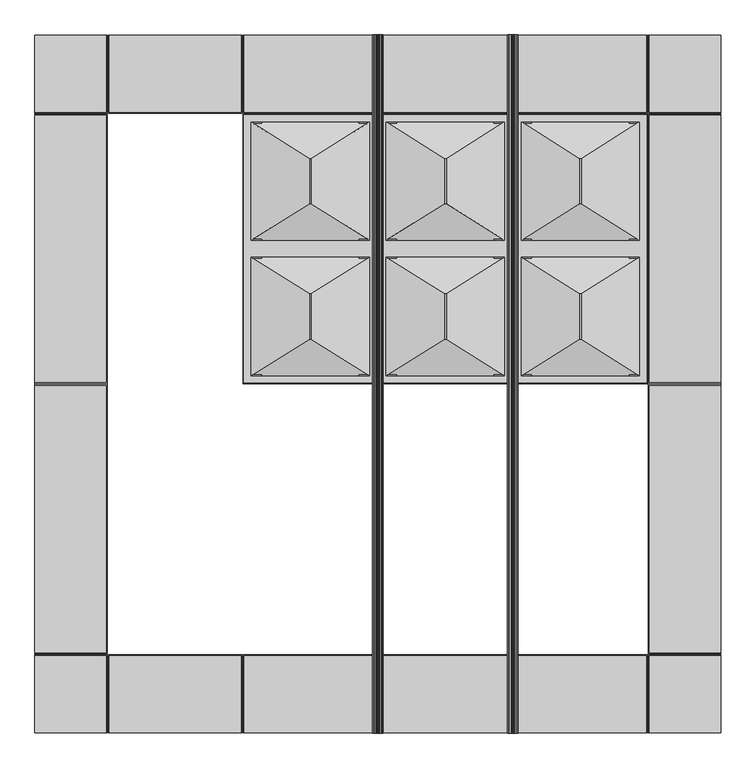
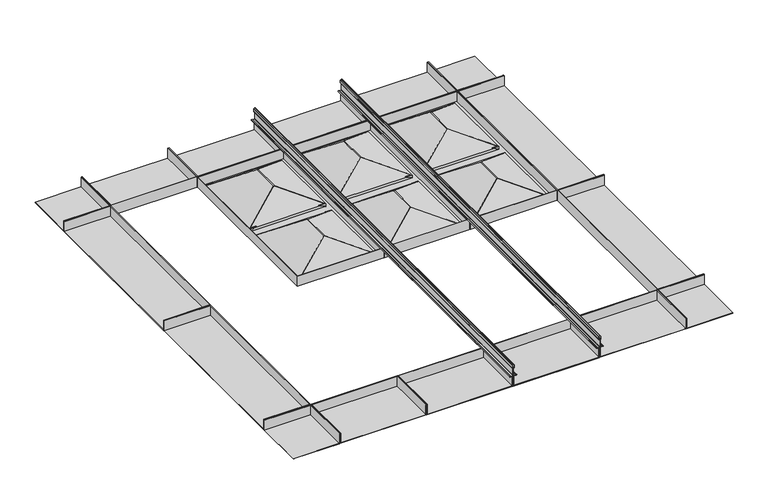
"""IFC4 building model written with IfcOpenShell, lengths in millimetres: proxy geometry, Maxxit_Piramid-Ceiling_rev-01 : Maxxit_Piramid-Ceiling_Duo."""

from ifc_helpers import new_model, si_unit, point, frame, frame_2d, origin, place, context, project, spatial, polyline, circle_curve, trimmed, segment, composite_curve, outline, extrude, faceted_brep, source, transform, mapped, element, save


def generic_models_602b7332(model_context):
    return source(origin(), model_context, "Body", "SolidModel", [
        extrude(outline(composite_curve([segment(polyline([(26.3453115, 1079.8521622), (26.0364605, 1088.2221882), (27.0486923, 1088.2221882), (27.0486923, 1080.4587813)]), True, "CONTINUOUS"), segment(trimmed(circle_curve(frame_2d((28.0053766, 1080.4587813)), 0.9566843), [point((27.0486923, 1080.4587813))], [point((28.0053766, 1079.502097))], True, "CARTESIAN"), True, "CONTINUOUS"), segment(polyline([(28.0053766, 1079.502097), (53.7729211, 1079.502097)]), True, "CONTINUOUS"), segment(trimmed(circle_curve(frame_2d((53.6130577, 1080.2289444)), 0.74422), [point((53.7729211, 1079.502097))], [point((54.356, 1080.1853536))], True, "CARTESIAN"), True, "CONTINUOUS"), segment(trimmed(circle_curve(frame_2d((58.371716, 1080.4444703)), 4.0240672), [point((54.356, 1080.1853536))], [point((54.4068054, 1081.1319295))], False, "CARTESIAN"), True, "CONTINUOUS"), segment(trimmed(circle_curve(frame_2d((55.7865501, 1080.774174)), 1.4253717), [point((54.4068054, 1081.1319295))], [point((55.7865501, 1082.1995457))], False, "CARTESIAN"), True, "CONTINUOUS"), segment(polyline([(55.7865501, 1082.1995457), (64.7585942, 1082.1995457)]), True, "CONTINUOUS"), segment(trimmed(circle_curve(frame_2d((64.8150812, 1080.1494608)), 2.0508629), [point((64.7585942, 1082.1995457))], [point((66.2652603, 1081.5996399))], False, "CARTESIAN"), True, "CONTINUOUS"), segment(polyline([(66.2652603, 1081.5996399), (68.1708325, 1079.6940677)]), True, "CONTINUOUS"), segment(trimmed(circle_curve(frame_2d((67.1830148, 1078.70625)), 1.3969852), [point((68.1708325, 1079.6940677))], [point((68.1708325, 1077.7184323))], False, "CARTESIAN"), True, "CONTINUOUS"), segment(polyline([(68.1708325, 1077.7184323), (66.2652603, 1075.8128601)]), True, "CONTINUOUS"), segment(trimmed(circle_curve(frame_2d((64.8150812, 1077.2630392)), 2.0508629), [point((66.2652603, 1075.8128601))], [point((64.7585942, 1075.2129543))], False, "CARTESIAN"), True, "CONTINUOUS"), segment(polyline([(64.7585942, 1075.2129543), (55.7865501, 1075.2129543)]), True, "CONTINUOUS"), segment(trimmed(circle_curve(frame_2d((55.7865501, 1076.638326)), 1.4253717), [point((55.7865501, 1075.2129543))], [point((54.4068054, 1076.2805705))], False, "CARTESIAN"), True, "CONTINUOUS"), segment(trimmed(circle_curve(frame_2d((58.371716, 1076.9680297)), 4.0240672), [point((54.4068054, 1076.2805705))], [point((54.356, 1077.2271464))], False, "CARTESIAN"), True, "CONTINUOUS"), segment(trimmed(circle_curve(frame_2d((53.6130577, 1077.1835556)), 0.74422), [point((54.356, 1077.2271464))], [point((53.7436541, 1077.9162274))], True, "CARTESIAN"), True, "CONTINUOUS"), segment(polyline([(53.7436541, 1077.9162274), (28.0053766, 1077.9162274)]), True, "CONTINUOUS"), segment(trimmed(circle_curve(frame_2d((28.0053766, 1076.9595431)), 0.9566843), [point((28.0053766, 1077.9162274))], [point((27.0486923, 1076.9595431))], True, "CARTESIAN"), True, "CONTINUOUS"), segment(polyline([(27.0486923, 1076.9595431), (27.0486923, 1068.3632271), (26.0290179, 1068.3632271), (26.3453115, 1077.5661622)]), True, "CONTINUOUS"), segment(trimmed(circle_curve(frame_2d((27.4883115, 1077.5661622)), 1.143), [point((26.3453115, 1077.5661622))], [point((27.4883115, 1078.7091622))], False, "CARTESIAN"), True, "CONTINUOUS"), segment(trimmed(circle_curve(frame_2d((27.4883115, 1079.8521622)), 1.143), [point((27.4883115, 1078.7091622))], [point((26.3453115, 1079.8521622))], False, "CARTESIAN"), True, "CONTINUOUS")], self_intersect=False), holes=[composite_curve([segment(trimmed(circle_curve(frame_2d((54.058724, 1077.6366423)), 1.0922), [point((54.2797221, 1078.70625))], [point((55.150924, 1077.6366423))], False, "CARTESIAN"), True, "CONTINUOUS"), segment(polyline([(55.150924, 1077.6366423), (55.150924, 1076.6462215)]), True, "CONTINUOUS"), segment(trimmed(circle_curve(frame_2d((55.7859245, 1076.6462215)), 0.6350005), [point((55.150924, 1076.6462215))], [point((55.7859245, 1076.011221))], True, "CARTESIAN"), True, "CONTINUOUS"), segment(polyline([(55.7859245, 1076.011221), (64.7585942, 1076.011221)]), True, "CONTINUOUS"), segment(trimmed(circle_curve(frame_2d((64.7240599, 1077.5140641)), 1.5032399), [point((64.7585942, 1076.011221))], [point((65.7039943, 1076.3741261))], True, "CARTESIAN"), True, "CONTINUOUS"), segment(polyline([(65.7039943, 1076.3741261), (67.6095665, 1078.2796983)]), True, "CONTINUOUS"), segment(trimmed(circle_curve(frame_2d((67.1830148, 1078.70625)), 0.6032352), [point((67.6095665, 1078.2796983))], [point((67.6095665, 1079.1328017))], True, "CARTESIAN"), True, "CONTINUOUS"), segment(polyline([(67.6095665, 1079.1328017), (65.7039943, 1081.0383739)]), True, "CONTINUOUS"), segment(trimmed(circle_curve(frame_2d((64.7240599, 1079.8984359)), 1.5032399), [point((65.7039943, 1081.0383739))], [point((64.7585942, 1081.401279))], True, "CARTESIAN"), True, "CONTINUOUS"), segment(polyline([(64.7585942, 1081.401279), (55.7859245, 1081.401279)]), True, "CONTINUOUS"), segment(trimmed(circle_curve(frame_2d((55.7859245, 1080.7662785)), 0.6350005), [point((55.7859245, 1081.401279))], [point((55.150924, 1080.7662785))], True, "CARTESIAN"), True, "CONTINUOUS"), segment(polyline([(55.150924, 1080.7662785), (55.150924, 1079.7758577)]), True, "CONTINUOUS"), segment(trimmed(circle_curve(frame_2d((54.058724, 1079.7758577)), 1.0922), [point((55.150924, 1079.7758577))], [point((54.2797221, 1078.70625))], False, "CARTESIAN"), True, "CONTINUOUS")], self_intersect=False)]), frame((0.0, -0.79375, 0.0), z_axis=(0.0, 1.0, 0.0), x_axis=(0.0, 0.0, 1.0)), (0.0, 0.0, 1.0), 1574.8),
        extrude(outline(composite_curve([segment(trimmed(circle_curve(frame_2d((26.8823557, 1089.1419885)), 1.4823557), [point((25.4, 1089.1419885))], [point((28.3175237, 1088.7709475))], False, "CARTESIAN"), True, "CONTINUOUS"), segment(polyline([(28.3175237, 1088.7709475), (27.887022, 1087.2447705), (27.123083, 1087.4602613), (27.550773, 1088.9764703)]), True, "CONTINUOUS"), segment(trimmed(circle_curve(frame_2d((26.8823557, 1089.1419885)), 0.6886057), [point((27.550773, 1088.9764703))], [point((26.19375, 1089.1419885))], True, "CARTESIAN"), True, "CONTINUOUS"), segment(polyline([(26.19375, 1089.1419885), (26.19375, 1068.2705115)]), True, "CONTINUOUS"), segment(trimmed(circle_curve(frame_2d((26.8823557, 1068.2705115)), 0.6886057), [point((26.19375, 1068.2705115))], [point((27.550773, 1068.4360297))], True, "CARTESIAN"), True, "CONTINUOUS"), segment(polyline([(27.550773, 1068.4360297), (27.123083, 1069.9522387), (27.887022, 1070.1677295), (28.3175237, 1068.6415525)]), True, "CONTINUOUS"), segment(trimmed(circle_curve(frame_2d((26.8823557, 1068.2705115)), 1.4823557), [point((28.3175237, 1068.6415525))], [point((25.4, 1068.2705115))], False, "CARTESIAN"), True, "CONTINUOUS"), segment(polyline([(25.4, 1068.2705115), (25.4, 1089.1419885)]), True, "CONTINUOUS")], self_intersect=False)), frame((0.0, -0.79375, 0.0), z_axis=(0.0, 1.0, 0.0), x_axis=(0.0, 0.0, 1.0)), (0.0, 0.0, 1.0), 1574.8),
        extrude(outline(composite_curve([segment(polyline([(26.3453115, 775.0521622), (26.0364605, 783.4221882), (27.0486923, 783.4221882), (27.0486923, 775.6587813)]), True, "CONTINUOUS"), segment(trimmed(circle_curve(frame_2d((28.0053766, 775.6587813)), 0.9566843), [point((27.0486923, 775.6587813))], [point((28.0053766, 774.702097))], True, "CARTESIAN"), True, "CONTINUOUS"), segment(polyline([(28.0053766, 774.702097), (53.7729211, 774.702097)]), True, "CONTINUOUS"), segment(trimmed(circle_curve(frame_2d((53.6130577, 775.4289444)), 0.74422), [point((53.7729211, 774.702097))], [point((54.356, 775.3853536))], True, "CARTESIAN"), True, "CONTINUOUS"), segment(trimmed(circle_curve(frame_2d((58.371716, 775.6444703)), 4.0240672), [point((54.356, 775.3853536))], [point((54.4068054, 776.3319295))], False, "CARTESIAN"), True, "CONTINUOUS"), segment(trimmed(circle_curve(frame_2d((55.7865501, 775.974174)), 1.4253717), [point((54.4068054, 776.3319295))], [point((55.7865501, 777.3995457))], False, "CARTESIAN"), True, "CONTINUOUS"), segment(polyline([(55.7865501, 777.3995457), (64.7585942, 777.3995457)]), True, "CONTINUOUS"), segment(trimmed(circle_curve(frame_2d((64.8150812, 775.3494608)), 2.0508629), [point((64.7585942, 777.3995457))], [point((66.2652603, 776.7996399))], False, "CARTESIAN"), True, "CONTINUOUS"), segment(polyline([(66.2652603, 776.7996399), (68.1708325, 774.8940677)]), True, "CONTINUOUS"), segment(trimmed(circle_curve(frame_2d((67.1830148, 773.90625)), 1.3969852), [point((68.1708325, 774.8940677))], [point((68.1708325, 772.9184323))], False, "CARTESIAN"), True, "CONTINUOUS"), segment(polyline([(68.1708325, 772.9184323), (66.2652603, 771.0128601)]), True, "CONTINUOUS"), segment(trimmed(circle_curve(frame_2d((64.8150812, 772.4630392)), 2.0508629), [point((66.2652603, 771.0128601))], [point((64.7585942, 770.4129543))], False, "CARTESIAN"), True, "CONTINUOUS"), segment(polyline([(64.7585942, 770.4129543), (55.7865501, 770.4129543)]), True, "CONTINUOUS"), segment(trimmed(circle_curve(frame_2d((55.7865501, 771.838326)), 1.4253717), [point((55.7865501, 770.4129543))], [point((54.4068054, 771.4805705))], False, "CARTESIAN"), True, "CONTINUOUS"), segment(trimmed(circle_curve(frame_2d((58.371716, 772.1680297)), 4.0240672), [point((54.4068054, 771.4805705))], [point((54.356, 772.4271464))], False, "CARTESIAN"), True, "CONTINUOUS"), segment(trimmed(circle_curve(frame_2d((53.6130577, 772.3835556)), 0.74422), [point((54.356, 772.4271464))], [point((53.7436541, 773.1162274))], True, "CARTESIAN"), True, "CONTINUOUS"), segment(polyline([(53.7436541, 773.1162274), (28.0053766, 773.1162274)]), True, "CONTINUOUS"), segment(trimmed(circle_curve(frame_2d((28.0053766, 772.1595431)), 0.9566843), [point((28.0053766, 773.1162274))], [point((27.0486923, 772.1595431))], True, "CARTESIAN"), True, "CONTINUOUS"), segment(polyline([(27.0486923, 772.1595431), (27.0486923, 763.5632271), (26.0290179, 763.5632271), (26.3453115, 772.7661622)]), True, "CONTINUOUS"), segment(trimmed(circle_curve(frame_2d((27.4883115, 772.7661622)), 1.143), [point((26.3453115, 772.7661622))], [point((27.4883115, 773.9091622))], False, "CARTESIAN"), True, "CONTINUOUS"), segment(trimmed(circle_curve(frame_2d((27.4883115, 775.0521622)), 1.143), [point((27.4883115, 773.9091622))], [point((26.3453115, 775.0521622))], False, "CARTESIAN"), True, "CONTINUOUS")], self_intersect=False), holes=[composite_curve([segment(trimmed(circle_curve(frame_2d((54.058724, 772.8366423)), 1.0922), [point((54.2797221, 773.90625))], [point((55.150924, 772.8366423))], False, "CARTESIAN"), True, "CONTINUOUS"), segment(polyline([(55.150924, 772.8366423), (55.150924, 771.8462215)]), True, "CONTINUOUS"), segment(trimmed(circle_curve(frame_2d((55.7859245, 771.8462215)), 0.6350005), [point((55.150924, 771.8462215))], [point((55.7859245, 771.211221))], True, "CARTESIAN"), True, "CONTINUOUS"), segment(polyline([(55.7859245, 771.211221), (64.7585942, 771.211221)]), True, "CONTINUOUS"), segment(trimmed(circle_curve(frame_2d((64.7240599, 772.7140641)), 1.5032399), [point((64.7585942, 771.211221))], [point((65.7039943, 771.5741261))], True, "CARTESIAN"), True, "CONTINUOUS"), segment(polyline([(65.7039943, 771.5741261), (67.6095665, 773.4796983)]), True, "CONTINUOUS"), segment(trimmed(circle_curve(frame_2d((67.1830148, 773.90625)), 0.6032352), [point((67.6095665, 773.4796983))], [point((67.6095665, 774.3328017))], True, "CARTESIAN"), True, "CONTINUOUS"), segment(polyline([(67.6095665, 774.3328017), (65.7039943, 776.2383739)]), True, "CONTINUOUS"), segment(trimmed(circle_curve(frame_2d((64.7240599, 775.0984359)), 1.5032399), [point((65.7039943, 776.2383739))], [point((64.7585942, 776.601279))], True, "CARTESIAN"), True, "CONTINUOUS"), segment(polyline([(64.7585942, 776.601279), (55.7859245, 776.601279)]), True, "CONTINUOUS"), segment(trimmed(circle_curve(frame_2d((55.7859245, 775.9662785)), 0.6350005), [point((55.7859245, 776.601279))], [point((55.150924, 775.9662785))], True, "CARTESIAN"), True, "CONTINUOUS"), segment(polyline([(55.150924, 775.9662785), (55.150924, 774.9758577)]), True, "CONTINUOUS"), segment(trimmed(circle_curve(frame_2d((54.058724, 774.9758577)), 1.0922), [point((55.150924, 774.9758577))], [point((54.2797221, 773.90625))], False, "CARTESIAN"), True, "CONTINUOUS")], self_intersect=False)]), frame((0.0, -0.79375, 0.0), z_axis=(0.0, 1.0, 0.0), x_axis=(0.0, 0.0, 1.0)), (0.0, 0.0, 1.0), 1574.8),
        extrude(outline(composite_curve([segment(trimmed(circle_curve(frame_2d((26.8823557, 784.3419885)), 1.4823557), [point((25.4, 784.3419885))], [point((28.3175237, 783.9709475))], False, "CARTESIAN"), True, "CONTINUOUS"), segment(polyline([(28.3175237, 783.9709475), (27.887022, 782.4447705), (27.123083, 782.6602613), (27.550773, 784.1764703)]), True, "CONTINUOUS"), segment(trimmed(circle_curve(frame_2d((26.8823557, 784.3419885)), 0.6886057), [point((27.550773, 784.1764703))], [point((26.19375, 784.3419885))], True, "CARTESIAN"), True, "CONTINUOUS"), segment(polyline([(26.19375, 784.3419885), (26.19375, 763.4705115)]), True, "CONTINUOUS"), segment(trimmed(circle_curve(frame_2d((26.8823557, 763.4705115)), 0.6886057), [point((26.19375, 763.4705115))], [point((27.550773, 763.6360297))], True, "CARTESIAN"), True, "CONTINUOUS"), segment(polyline([(27.550773, 763.6360297), (27.123083, 765.1522387), (27.887022, 765.3677295), (28.3175237, 763.8415525)]), True, "CONTINUOUS"), segment(trimmed(circle_curve(frame_2d((26.8823557, 763.4705115)), 1.4823557), [point((28.3175237, 763.8415525))], [point((25.4, 763.4705115))], False, "CARTESIAN"), True, "CONTINUOUS"), segment(polyline([(25.4, 763.4705115), (25.4, 784.3419885)]), True, "CONTINUOUS")], self_intersect=False)), frame((0.0, -0.79375, 0.0), z_axis=(0.0, 1.0, 0.0), x_axis=(0.0, 0.0, 1.0)), (0.0, 0.0, 1.0), 1574.8),
        faceted_brep([(1384.3, 1395.4125, 25.4), (1384.3, 787.4, 25.4), (1547.8125, 787.4, 25.4), (1547.8125, 788.9875, 25.4), (1385.8875, 788.9875, 25.4), (1385.8875, 1393.825, 25.4), (1547.8125, 1393.825, 25.4), (1547.8125, 1395.4125, 25.4), (1384.3, 1395.4125, -12.7), (1547.8125, 1395.4125, -12.7), (1547.8125, 787.4, -12.7), (1384.3, 787.4, -12.7), (1547.8125, 1393.825, -11.1125), (1547.8125, 788.9875, -11.1125), (1385.8875, 788.9875, -11.1125), (1385.8875, 1393.825, -11.1125)], [[[0, 1, 2, 3, 4, 5, 6, 7]], [[8, 9, 10, 11]], [[7, 9, 8, 0]], [[9, 7, 6, 12, 13, 3, 2, 10]], [[1, 11, 10, 2]], [[0, 8, 11, 1]], [[14, 13, 12, 15]], [[12, 6, 5, 15]], [[14, 4, 3, 13]], [[15, 5, 4, 14]]]),
        faceted_brep([(1384.3, 785.8125, 25.4), (1384.3, 177.8, 25.4), (1547.8125, 177.8, 25.4), (1547.8125, 179.3875, 25.4), (1385.8875, 179.3875, 25.4), (1385.8875, 784.225, 25.4), (1547.8125, 784.225, 25.4), (1547.8125, 785.8125, 25.4), (1384.3, 785.8125, -12.7), (1547.8125, 785.8125, -12.7), (1547.8125, 177.8, -12.7), (1384.3, 177.8, -12.7), (1547.8125, 784.225, -11.1125), (1547.8125, 179.3875, -11.1125), (1385.8875, 179.3875, -11.1125), (1385.8875, 784.225, -11.1125)], [[[0, 1, 2, 3, 4, 5, 6, 7]], [[8, 9, 10, 11]], [[7, 9, 8, 0]], [[9, 7, 6, 12, 13, 3, 2, 10]], [[1, 11, 10, 2]], [[0, 8, 11, 1]], [[14, 13, 12, 15]], [[12, 6, 5, 15]], [[14, 4, 3, 13]], [[15, 5, 4, 14]]]),
        faceted_brep([(1382.5125, 1397.0, 25.4), (1382.5125, 1573.2125, 25.4), (1380.925, 1573.2125, 25.4), (1380.925, 1398.5875, 25.4), (1081.0875, 1398.5875, 25.4), (1081.0875, 1573.2125, 25.4), (1079.5, 1573.2125, 25.4), (1079.5, 1397.0, 25.4), (1382.5125, 1397.0, -12.7), (1079.5, 1397.0, -12.7), (1079.5, 1573.2125, -12.7), (1382.5125, 1573.2125, -12.7), (1081.0875, 1573.2125, -11.1125), (1380.925, 1573.2125, -11.1125), (1380.925, 1398.5875, -11.1125), (1081.0875, 1398.5875, -11.1125)], [[[0, 1, 2, 3, 4, 5, 6, 7]], [[8, 9, 10, 11]], [[7, 9, 8, 0]], [[6, 10, 9, 7]], [[10, 6, 5, 12, 13, 2, 1, 11]], [[0, 8, 11, 1]], [[14, 13, 12, 15]], [[15, 4, 3, 14]], [[12, 5, 4, 15]], [[14, 3, 2, 13]]]),
        faceted_brep([(1077.7125, 1397.0, 25.4), (1077.7125, 1573.2125, 25.4), (1076.125, 1573.2125, 25.4), (1076.125, 1398.5875, 25.4), (776.2875, 1398.5875, 25.4), (776.2875, 1573.2125, 25.4), (774.7, 1573.2125, 25.4), (774.7, 1397.0, 25.4), (1077.7125, 1397.0, -12.7), (774.7, 1397.0, -12.7), (774.7, 1573.2125, -12.7), (1077.7125, 1573.2125, -12.7), (776.2875, 1573.2125, -11.1125), (1076.125, 1573.2125, -11.1125), (1076.125, 1398.5875, -11.1125), (776.2875, 1398.5875, -11.1125)], [[[0, 1, 2, 3, 4, 5, 6, 7]], [[8, 9, 10, 11]], [[7, 9, 8, 0]], [[6, 10, 9, 7]], [[10, 6, 5, 12, 13, 2, 1, 11]], [[0, 8, 11, 1]], [[14, 13, 12, 15]], [[15, 4, 3, 14]], [[12, 5, 4, 15]], [[14, 3, 2, 13]]]),
        faceted_brep([(772.9125, 1397.0, 25.4), (772.9125, 1573.2125, 25.4), (771.325, 1573.2125, 25.4), (771.325, 1398.5875, 25.4), (471.4875, 1398.5875, 25.4), (471.4875, 1573.2125, 25.4), (469.9, 1573.2125, 25.4), (469.9, 1397.0, 25.4), (772.9125, 1397.0, -12.7), (469.9, 1397.0, -12.7), (469.9, 1573.2125, -12.7), (772.9125, 1573.2125, -12.7), (471.4875, 1573.2125, -11.1125), (771.325, 1573.2125, -11.1125), (771.325, 1398.5875, -11.1125), (471.4875, 1398.5875, -11.1125)], [[[0, 1, 2, 3, 4, 5, 6, 7]], [[8, 9, 10, 11]], [[7, 9, 8, 0]], [[6, 10, 9, 7]], [[10, 6, 5, 12, 13, 2, 1, 11]], [[0, 8, 11, 1]], [[14, 13, 12, 15]], [[15, 4, 3, 14]], [[12, 5, 4, 15]], [[14, 3, 2, 13]]]),
        faceted_brep([(468.1125, 1397.0, 25.4), (468.1125, 1573.2125, 25.4), (466.525, 1573.2125, 25.4), (466.525, 1398.5875, 25.4), (166.6875, 1398.5875, 25.4), (166.6875, 1573.2125, 25.4), (165.1, 1573.2125, 25.4), (165.1, 1397.0, 25.4), (468.1125, 1397.0, -12.7), (165.1, 1397.0, -12.7), (165.1, 1573.2125, -12.7), (468.1125, 1573.2125, -12.7), (166.6875, 1573.2125, -11.1125), (466.525, 1573.2125, -11.1125), (466.525, 1398.5875, -11.1125), (166.6875, 1398.5875, -11.1125)], [[[0, 1, 2, 3, 4, 5, 6, 7]], [[8, 9, 10, 11]], [[7, 9, 8, 0]], [[6, 10, 9, 7]], [[10, 6, 5, 12, 13, 2, 1, 11]], [[0, 8, 11, 1]], [[14, 13, 12, 15]], [[15, 4, 3, 14]], [[12, 5, 4, 15]], [[14, 3, 2, 13]]]),
        faceted_brep([(163.5125, 1395.4125, 25.4), (0.0, 1395.4125, 25.4), (0.0, 1393.825, 25.4), (161.925, 1393.825, 25.4), (161.925, 788.9875, 25.4), (0.0, 788.9875, 25.4), (0.0, 787.4, 25.4), (163.5125, 787.4, 25.4), (163.5125, 1395.4125, -12.7), (163.5125, 787.4, -12.7), (0.0, 787.4, -12.7), (0.0, 1395.4125, -12.7), (0.0, 788.9875, -11.1125), (0.0, 1393.825, -11.1125), (161.925, 788.9875, -11.1125), (161.925, 1393.825, -11.1125)], [[[0, 1, 2, 3, 4, 5, 6, 7]], [[8, 9, 10, 11]], [[1, 0, 8, 11]], [[11, 10, 6, 5, 12, 13, 2, 1]], [[7, 6, 10, 9]], [[0, 7, 9, 8]], [[14, 15, 13, 12]], [[13, 15, 3, 2]], [[14, 12, 5, 4]], [[15, 14, 4, 3]]]),
        faceted_brep([(163.5125, 785.8125, 25.4), (0.0, 785.8125, 25.4), (0.0, 784.225, 25.4), (161.925, 784.225, 25.4), (161.925, 179.3875, 25.4), (0.0, 179.3875, 25.4), (0.0, 177.8, 25.4), (163.5125, 177.8, 25.4), (163.5125, 785.8125, -12.7), (163.5125, 177.8, -12.7), (0.0, 177.8, -12.7), (0.0, 785.8125, -12.7), (0.0, 179.3875, -11.1125), (0.0, 784.225, -11.1125), (161.925, 179.3875, -11.1125), (161.925, 784.225, -11.1125)], [[[0, 1, 2, 3, 4, 5, 6, 7]], [[8, 9, 10, 11]], [[1, 0, 8, 11]], [[11, 10, 6, 5, 12, 13, 2, 1]], [[7, 6, 10, 9]], [[0, 7, 9, 8]], [[14, 15, 13, 12]], [[13, 15, 3, 2]], [[14, 12, 5, 4]], [[15, 14, 4, 3]]]),
        faceted_brep([(1382.5125, 176.2125, 25.4), (1079.5, 176.2125, 25.4), (1079.5, 0.0, 25.4), (1081.0875, 0.0, 25.4), (1081.0875, 174.625, 25.4), (1380.925, 174.625, 25.4), (1380.925, 0.0, 25.4), (1382.5125, 0.0, 25.4), (1382.5125, 176.2125, -12.7), (1382.5125, 0.0, -12.7), (1079.5, 0.0, -12.7), (1079.5, 176.2125, -12.7), (1380.925, 0.0, -11.1125), (1081.0875, 0.0, -11.1125), (1380.925, 174.625, -11.1125), (1081.0875, 174.625, -11.1125)], [[[0, 1, 2, 3, 4, 5, 6, 7]], [[8, 9, 10, 11]], [[1, 0, 8, 11]], [[2, 1, 11, 10]], [[10, 9, 7, 6, 12, 13, 3, 2]], [[0, 7, 9, 8]], [[14, 15, 13, 12]], [[15, 14, 5, 4]], [[13, 15, 4, 3]], [[14, 12, 6, 5]]]),
        faceted_brep([(1077.7125, 176.2125, 25.4), (774.7, 176.2125, 25.4), (774.7, 0.0, 25.4), (776.2875, 0.0, 25.4), (776.2875, 174.625, 25.4), (1076.125, 174.625, 25.4), (1076.125, 0.0, 25.4), (1077.7125, 0.0, 25.4), (1077.7125, 176.2125, -12.7), (1077.7125, 0.0, -12.7), (774.7, 0.0, -12.7), (774.7, 176.2125, -12.7), (1076.125, 0.0, -11.1125), (776.2875, 0.0, -11.1125), (1076.125, 174.625, -11.1125), (776.2875, 174.625, -11.1125)], [[[0, 1, 2, 3, 4, 5, 6, 7]], [[8, 9, 10, 11]], [[1, 0, 8, 11]], [[2, 1, 11, 10]], [[10, 9, 7, 6, 12, 13, 3, 2]], [[0, 7, 9, 8]], [[14, 15, 13, 12]], [[15, 14, 5, 4]], [[13, 15, 4, 3]], [[14, 12, 6, 5]]]),
        faceted_brep([(772.9125, 176.2125, 25.4), (469.9, 176.2125, 25.4), (469.9, 0.0, 25.4), (471.4875, 0.0, 25.4), (471.4875, 174.625, 25.4), (771.325, 174.625, 25.4), (771.325, 0.0, 25.4), (772.9125, 0.0, 25.4), (772.9125, 176.2125, -12.7), (772.9125, 0.0, -12.7), (469.9, 0.0, -12.7), (469.9, 176.2125, -12.7), (771.325, 0.0, -11.1125), (471.4875, 0.0, -11.1125), (771.325, 174.625, -11.1125), (471.4875, 174.625, -11.1125)], [[[0, 1, 2, 3, 4, 5, 6, 7]], [[8, 9, 10, 11]], [[1, 0, 8, 11]], [[2, 1, 11, 10]], [[10, 9, 7, 6, 12, 13, 3, 2]], [[0, 7, 9, 8]], [[14, 15, 13, 12]], [[15, 14, 5, 4]], [[13, 15, 4, 3]], [[14, 12, 6, 5]]]),
        faceted_brep([(468.1125, 176.2125, 25.4), (165.1, 176.2125, 25.4), (165.1, 0.0, 25.4), (166.6875, 0.0, 25.4), (166.6875, 174.625, 25.4), (466.525, 174.625, 25.4), (466.525, 0.0, 25.4), (468.1125, 0.0, 25.4), (468.1125, 176.2125, -12.7), (468.1125, 0.0, -12.7), (165.1, 0.0, -12.7), (165.1, 176.2125, -12.7), (466.525, 0.0, -11.1125), (166.6875, 0.0, -11.1125), (466.525, 174.625, -11.1125), (166.6875, 174.625, -11.1125)], [[[0, 1, 2, 3, 4, 5, 6, 7]], [[8, 9, 10, 11]], [[1, 0, 8, 11]], [[2, 1, 11, 10]], [[10, 9, 7, 6, 12, 13, 3, 2]], [[0, 7, 9, 8]], [[14, 15, 13, 12]], [[15, 14, 5, 4]], [[13, 15, 4, 3]], [[14, 12, 6, 5]]]),
        faceted_brep([(1547.8125, 176.2125, 25.4), (1384.3, 176.2125, 25.4), (1384.3, 0.0, 25.4), (1385.8875, 0.0, 25.4), (1385.8875, 174.625, 25.4), (1547.8125, 174.625, 25.4), (1384.3, 0.0, -12.7), (1384.3, 176.2125, -12.7), (1547.8125, 176.2125, -12.7), (1547.8125, 0.0, -12.7), (1547.8125, 0.0, -11.1125), (1385.8875, 0.0, -11.1125), (1547.8125, 174.625, -11.1125), (1385.8875, 174.625, -11.1125)], [[[0, 1, 2, 3, 4, 5]], [[6, 7, 8, 9]], [[6, 9, 10, 11, 3, 2]], [[9, 8, 0, 5, 12, 10]], [[2, 1, 7, 6]], [[1, 0, 8, 7]], [[13, 11, 10, 12]], [[11, 13, 4, 3]], [[13, 12, 5, 4]]]),
        faceted_brep([(163.5125, 0.0, 25.4), (163.5125, 176.2125, 25.4), (0.0, 176.2125, 25.4), (0.0, 174.625, 25.4), (161.925, 174.625, 25.4), (161.925, 0.0, 25.4), (0.0, 176.2125, -12.7), (163.5125, 176.2125, -12.7), (163.5125, 0.0, -12.7), (0.0, 0.0, -12.7), (0.0, 0.0, -11.1125), (0.0, 174.625, -11.1125), (161.925, 0.0, -11.1125), (161.925, 174.625, -11.1125)], [[[0, 1, 2, 3, 4, 5]], [[6, 7, 8, 9]], [[6, 9, 10, 11, 3, 2]], [[9, 8, 0, 5, 12, 10]], [[1, 0, 8, 7]], [[2, 1, 7, 6]], [[13, 11, 10, 12]], [[11, 13, 4, 3]], [[13, 12, 5, 4]]]),
        faceted_brep([(163.5125, 1397.0, 25.4), (163.5125, 1573.2125, 25.4), (161.925, 1573.2125, 25.4), (161.925, 1398.5875, 25.4), (0.0, 1398.5875, 25.4), (0.0, 1397.0, 25.4), (163.5125, 1397.0, -12.7), (0.0, 1397.0, -12.7), (0.0, 1573.2125, -12.7), (163.5125, 1573.2125, -12.7), (0.0, 1573.2125, -11.1125), (161.925, 1573.2125, -11.1125), (0.0, 1398.5875, -11.1125), (161.925, 1398.5875, -11.1125)], [[[0, 1, 2, 3, 4, 5]], [[6, 7, 8, 9]], [[1, 0, 6, 9]], [[0, 5, 7, 6]], [[9, 8, 10, 11, 2, 1]], [[8, 7, 5, 4, 12, 10]], [[13, 11, 10, 12]], [[11, 13, 3, 2]], [[13, 12, 4, 3]]]),
        faceted_brep([(1384.3, 1573.2125, 25.4), (1384.3, 1397.0, 25.4), (1547.8125, 1397.0, 25.4), (1547.8125, 1398.5875, 25.4), (1385.8875, 1398.5875, 25.4), (1385.8875, 1573.2125, 25.4), (1384.3, 1573.2125, -12.7), (1547.8125, 1573.2125, -12.7), (1547.8125, 1397.0, -12.7), (1384.3, 1397.0, -12.7), (1385.8875, 1573.2125, -11.1125), (1547.8125, 1573.2125, -11.1125), (1547.8125, 1398.5875, -11.1125), (1385.8875, 1398.5875, -11.1125)], [[[0, 1, 2, 3, 4, 5]], [[6, 7, 8, 9]], [[7, 6, 0, 5, 10, 11]], [[1, 0, 6, 9]], [[2, 1, 9, 8]], [[8, 7, 11, 12, 3, 2]], [[13, 12, 11, 10]], [[12, 13, 4, 3]], [[13, 10, 5, 4]]]),
        faceted_brep([(1097.70625, 1110.40625, -1.5875), (1097.70625, 1110.40625, -11.1125), (1120.9970758, 1110.40625, 0.0), (1101.0335108, 1110.40625, 0.0), (1364.7125, 1110.40625, -11.1125), (1364.7125, 1110.40625, -1.5875), (1361.3852392, 1110.40625, 0.0), (1341.4216742, 1110.40625, 0.0), (1364.7125, 1377.4125, -1.5875), (1364.7125, 1377.4125, -11.1125), (1341.4216742, 1377.4125, 0.0), (1361.3852392, 1377.4125, 0.0), (1097.70625, 1377.4125, -11.1125), (1097.70625, 1377.4125, -1.5875), (1101.0335108, 1377.4125, 0.0), (1120.9970758, 1377.4125, 0.0), (1341.4216742, 1125.208409, 0.0), (1233.2856971, 1192.95625, 51.59375), (1233.2856971, 1295.16875, 51.59375), (1341.4216742, 1362.916591, 0.0), (1229.1330529, 1192.95625, 51.59375), (1229.1330529, 1295.16875, 51.59375), (1120.9970758, 1362.916591, 0.0), (1120.9970758, 1125.2084109, 0.0), (1101.0335108, 1112.7011155, 0.0), (1229.1330529, 1192.9562609, 61.11875), (1229.1330529, 1295.16875, 61.11875), (1101.0335108, 1375.4238848, 0.0), (1233.2856971, 1192.95625, 61.11875), (1233.2856971, 1295.16875, 61.11875), (1361.3852392, 1375.4238848, 0.0), (1361.3852392, 1112.7011152, 0.0)], [[[0, 1, 2, 3]], [[4, 5, 6, 7]], [[8, 9, 10, 11]], [[12, 13, 14, 15]], [[5, 4, 9, 8]], [[9, 4, 7, 16, 17, 18, 19, 10]], [[18, 17, 20, 21]], [[1, 12, 15, 22, 21, 20, 23, 2]], [[1, 0, 13, 12]], [[13, 0, 3, 24, 25, 26, 27, 14]], [[26, 25, 28, 29]], [[5, 8, 11, 30, 29, 28, 31, 6]], [[27, 22, 15, 14]], [[19, 30, 11, 10]], [[31, 16, 7, 6]], [[23, 24, 3, 2]], [[18, 29, 30, 19]], [[26, 21, 22, 27]], [[20, 25, 24, 23]], [[28, 17, 16, 31]], [[21, 26, 29, 18]], [[25, 20, 17, 28]]]),
        faceted_brep([(1364.7125, 1110.40625, -1.5875), (1364.7125, 1110.40625, -11.1125), (1364.7125, 1110.6165663, -10.9527405), (1364.7125, 1110.6165663, -1.4277405), (1097.70625, 1110.40625, -11.1125), (1097.70625, 1110.40625, -1.5875), (1097.70625, 1110.6165663, -1.4277405), (1097.70625, 1110.6165663, -10.9527405), (1233.2856971, 1192.95625, 61.11875), (1229.1330354, 1192.95625, 61.11875), (1229.1330354, 1192.95625, 51.59375), (1233.2856971, 1192.95625, 51.59375)], [[[0, 1, 2, 3]], [[4, 5, 6, 7]], [[5, 0, 3, 8, 9, 6]], [[1, 0, 5, 4]], [[1, 4, 7, 10, 11, 2]], [[11, 10, 9, 8]], [[3, 2, 11, 8]], [[7, 6, 9, 10]]]),
        faceted_brep([(1229.621875, 1294.8625, 51.59375), (1232.796875, 1294.8625, 51.59375), (1232.796875, 1294.8625, 61.11875), (1229.621875, 1294.8625, 61.11875), (1097.70625, 1377.4125, -11.1125), (1364.7125, 1377.4125, -11.1125), (1097.859375, 1377.4125, -1.5875), (1364.7125, 1377.4125, -1.5875)], [[[0, 1, 2, 3]], [[4, 5, 1, 0]], [[5, 4, 6, 7]], [[7, 6, 3, 2]], [[0, 3, 6, 4]], [[2, 1, 5, 7]]]),
        faceted_brep([(1364.7125, 1072.40625, -1.5875), (1364.7125, 1072.40625, -11.1125), (1341.4216742, 1072.40625, 0.0), (1361.3852392, 1072.40625, 0.0), (1097.70625, 1072.40625, -11.1125), (1097.70625, 1072.40625, -1.5875), (1101.0335108, 1072.40625, 0.0), (1120.9970758, 1072.40625, 0.0), (1364.7125, 805.4, -11.1125), (1364.7125, 805.4, -1.5875), (1361.3852392, 805.4, 0.0), (1341.4216742, 805.4, 0.0), (1097.70625, 805.4, -1.5875), (1097.70625, 805.4, -11.1125), (1120.9970758, 805.4, 0.0), (1101.0335108, 805.4, 0.0), (1120.9970758, 819.895909, 0.0), (1101.0335108, 807.3886152, 0.0), (1101.0335108, 1070.1113845, 0.0), (1120.9970758, 1057.6040891, 0.0), (1361.3852392, 807.3886152, 0.0), (1341.4216742, 819.895909, 0.0), (1341.4216742, 1057.604091, 0.0), (1361.3852392, 1070.1113848, 0.0), (1233.2856971, 887.64375, 61.11875), (1233.2856971, 887.64375, 51.59375), (1229.1330529, 887.64375, 51.59375), (1229.1330529, 887.64375, 61.11875), (1229.1330529, 989.8562391, 61.11875), (1229.1330529, 989.8562391, 51.59375), (1233.2856971, 989.85625, 51.59375), (1233.2856971, 989.85625, 61.11875)], [[[0, 1, 2, 3]], [[4, 5, 6, 7]], [[8, 9, 10, 11]], [[12, 13, 14, 15]], [[1, 0, 9, 8]], [[16, 17, 15, 14]], [[18, 19, 7, 6]], [[20, 21, 11, 10]], [[22, 23, 3, 2]], [[24, 25, 21, 20]], [[26, 27, 17, 16]], [[28, 29, 19, 18]], [[30, 31, 23, 22]], [[1, 8, 11, 21, 25, 30, 22, 2]], [[30, 25, 26, 29]], [[13, 4, 7, 19, 29, 26, 16, 14]], [[5, 4, 13, 12]], [[5, 12, 15, 17, 27, 28, 18, 6]], [[28, 27, 24, 31]], [[9, 0, 3, 23, 31, 24, 20, 10]], [[27, 26, 25, 24]], [[29, 28, 31, 30]]]),
        faceted_brep([(1364.7125, 1072.40625, -11.1125), (1364.7125, 1072.40625, -1.5875), (1364.7125, 1072.1959337, -1.4277405), (1364.7125, 1072.1959337, -10.9527405), (1097.70625, 1072.40625, -1.5875), (1097.70625, 1072.40625, -11.1125), (1097.70625, 1072.1959337, -10.9527405), (1097.70625, 1072.1959337, -1.4277405), (1233.2856971, 989.85625, 61.11875), (1233.2856971, 989.85625, 51.59375), (1229.1330354, 989.85625, 51.59375), (1229.1330354, 989.85625, 61.11875)], [[[0, 1, 2, 3]], [[4, 5, 6, 7]], [[3, 2, 8, 9]], [[7, 6, 10, 11]], [[1, 4, 7, 11, 8, 2]], [[1, 0, 5, 4]], [[5, 0, 3, 9, 10, 6]], [[8, 11, 10, 9]]]),
        faceted_brep([(1229.621875, 887.95, 61.11875), (1232.796875, 887.95, 61.11875), (1232.796875, 887.95, 51.59375), (1229.621875, 887.95, 51.59375), (1364.7125, 805.4, -11.1125), (1097.70625, 805.4, -11.1125), (1364.559375, 805.4, -1.5875), (1097.70625, 805.4, -1.5875)], [[[0, 1, 2, 3]], [[4, 5, 3, 2]], [[5, 4, 6, 7]], [[7, 6, 1, 0]], [[0, 3, 5, 7]], [[2, 1, 6, 4]]]),
        faceted_brep([(1079.5, 1395.4125, 25.4), (1382.7125, 1395.4125, 25.4), (1382.7125, 1395.4125, -12.7), (1079.5, 1395.4125, -12.7), (1364.7125, 1072.40625, -12.7), (1364.7125, 805.4, -12.7), (1364.7125, 805.4, -11.1125), (1364.7125, 1072.40625, -11.1125), (1097.70625, 805.4, -12.7), (1097.70625, 805.4, -11.1125), (1381.125, 788.9875, -11.1125), (1081.0875, 788.9875, -11.1125), (1081.0875, 788.9875, 25.4), (1381.125, 788.9875, 25.4), (1381.125, 1393.825, -11.1125), (1381.125, 1393.825, 25.4), (1079.5, 787.4, 25.4), (1382.7125, 787.4, 25.4), (1081.0875, 1393.825, 25.4), (1079.5, 787.4, -12.7), (1382.7125, 787.4, -12.7), (1097.70625, 1377.4125, -12.7), (1097.70625, 1110.40625, -12.7), (1364.7125, 1110.40625, -12.7), (1364.7125, 1377.4125, -12.7), (1097.70625, 1072.40625, -12.7), (1097.70625, 1072.40625, -11.1125), (1364.7125, 1377.4125, -11.1125), (1097.70625, 1377.4125, -11.1125), (1364.7125, 1110.40625, -11.1125), (1097.70625, 1110.40625, -11.1125), (1081.0875, 1393.825, -11.1125)], [[[0, 1, 2, 3]], [[4, 5, 6, 7]], [[5, 8, 9, 6]], [[10, 11, 12, 13]], [[14, 10, 13, 15]], [[16, 17, 1, 0], [13, 12, 18, 15]], [[19, 3, 2, 20], [21, 22, 23, 24], [8, 5, 4, 25]], [[17, 16, 19, 20]], [[1, 17, 20, 2]], [[16, 0, 3, 19]], [[8, 25, 26, 9]], [[25, 4, 7, 26]], [[21, 24, 27, 28]], [[24, 23, 29, 27]], [[23, 22, 30, 29]], [[22, 21, 28, 30]], [[11, 10, 14, 31], [7, 6, 9, 26], [28, 27, 29, 30]], [[31, 14, 15, 18]], [[11, 31, 18, 12]]]),
        faceted_brep([(792.90625, 1110.40625, -1.5875), (792.90625, 1110.40625, -11.1125), (816.1970758, 1110.40625, 0.0), (796.2335108, 1110.40625, 0.0), (1059.9125, 1110.40625, -11.1125), (1059.9125, 1110.40625, -1.5875), (1056.5852392, 1110.40625, 0.0), (1036.6216742, 1110.40625, 0.0), (1059.9125, 1377.4125, -1.5875), (1059.9125, 1377.4125, -11.1125), (1036.6216742, 1377.4125, 0.0), (1056.5852392, 1377.4125, 0.0), (792.90625, 1377.4125, -11.1125), (792.90625, 1377.4125, -1.5875), (796.2335108, 1377.4125, 0.0), (816.1970758, 1377.4125, 0.0), (1036.6216742, 1125.208409, 0.0), (928.4856971, 1192.95625, 51.59375), (928.4856971, 1295.16875, 51.59375), (1036.6216742, 1362.916591, 0.0), (924.3330529, 1192.95625, 51.59375), (924.3330529, 1295.16875, 51.59375), (816.1970758, 1362.916591, 0.0), (816.1970758, 1125.2084109, 0.0), (796.2335108, 1112.7011155, 0.0), (924.3330529, 1192.9562609, 61.11875), (924.3330529, 1295.16875, 61.11875), (796.2335108, 1375.4238848, 0.0), (928.4856971, 1192.95625, 61.11875), (928.4856971, 1295.16875, 61.11875), (1056.5852392, 1375.4238848, 0.0), (1056.5852392, 1112.7011152, 0.0)], [[[0, 1, 2, 3]], [[4, 5, 6, 7]], [[8, 9, 10, 11]], [[12, 13, 14, 15]], [[5, 4, 9, 8]], [[9, 4, 7, 16, 17, 18, 19, 10]], [[18, 17, 20, 21]], [[1, 12, 15, 22, 21, 20, 23, 2]], [[1, 0, 13, 12]], [[13, 0, 3, 24, 25, 26, 27, 14]], [[26, 25, 28, 29]], [[5, 8, 11, 30, 29, 28, 31, 6]], [[27, 22, 15, 14]], [[19, 30, 11, 10]], [[31, 16, 7, 6]], [[23, 24, 3, 2]], [[18, 29, 30, 19]], [[26, 21, 22, 27]], [[20, 25, 24, 23]], [[28, 17, 16, 31]], [[21, 26, 29, 18]], [[25, 20, 17, 28]]]),
        faceted_brep([(1059.9125, 1110.40625, -1.5875), (1059.9125, 1110.40625, -11.1125), (1059.9125, 1110.6165663, -10.9527405), (1059.9125, 1110.6165663, -1.4277405), (792.90625, 1110.40625, -11.1125), (792.90625, 1110.40625, -1.5875), (792.90625, 1110.6165663, -1.4277405), (792.90625, 1110.6165663, -10.9527405), (928.4856971, 1192.95625, 61.11875), (924.3330354, 1192.95625, 61.11875), (924.3330354, 1192.95625, 51.59375), (928.4856971, 1192.95625, 51.59375)], [[[0, 1, 2, 3]], [[4, 5, 6, 7]], [[5, 0, 3, 8, 9, 6]], [[1, 0, 5, 4]], [[1, 4, 7, 10, 11, 2]], [[11, 10, 9, 8]], [[3, 2, 11, 8]], [[7, 6, 9, 10]]]),
        faceted_brep([(924.821875, 1294.8625, 51.59375), (927.996875, 1294.8625, 51.59375), (927.996875, 1294.8625, 61.11875), (924.821875, 1294.8625, 61.11875), (792.90625, 1377.4125, -11.1125), (1059.9125, 1377.4125, -11.1125), (793.059375, 1377.4125, -1.5875), (1059.9125, 1377.4125, -1.5875)], [[[0, 1, 2, 3]], [[4, 5, 1, 0]], [[5, 4, 6, 7]], [[7, 6, 3, 2]], [[0, 3, 6, 4]], [[2, 1, 5, 7]]]),
        faceted_brep([(1059.9125, 1072.40625, -1.5875), (1059.9125, 1072.40625, -11.1125), (1036.6216742, 1072.40625, 0.0), (1056.5852392, 1072.40625, 0.0), (792.90625, 1072.40625, -11.1125), (792.90625, 1072.40625, -1.5875), (796.2335108, 1072.40625, 0.0), (816.1970758, 1072.40625, 0.0), (1059.9125, 805.4, -11.1125), (1059.9125, 805.4, -1.5875), (1056.5852392, 805.4, 0.0), (1036.6216742, 805.4, 0.0), (792.90625, 805.4, -1.5875), (792.90625, 805.4, -11.1125), (816.1970758, 805.4, 0.0), (796.2335108, 805.4, 0.0), (816.1970758, 819.895909, 0.0), (796.2335108, 807.3886152, 0.0), (796.2335108, 1070.1113845, 0.0), (816.1970758, 1057.6040891, 0.0), (1056.5852392, 807.3886152, 0.0), (1036.6216742, 819.895909, 0.0), (1036.6216742, 1057.604091, 0.0), (1056.5852392, 1070.1113848, 0.0), (928.4856971, 887.64375, 61.11875), (928.4856971, 887.64375, 51.59375), (924.3330529, 887.64375, 51.59375), (924.3330529, 887.64375, 61.11875), (924.3330529, 989.8562391, 61.11875), (924.3330529, 989.8562391, 51.59375), (928.4856971, 989.85625, 51.59375), (928.4856971, 989.85625, 61.11875)], [[[0, 1, 2, 3]], [[4, 5, 6, 7]], [[8, 9, 10, 11]], [[12, 13, 14, 15]], [[1, 0, 9, 8]], [[16, 17, 15, 14]], [[18, 19, 7, 6]], [[20, 21, 11, 10]], [[22, 23, 3, 2]], [[24, 25, 21, 20]], [[26, 27, 17, 16]], [[28, 29, 19, 18]], [[30, 31, 23, 22]], [[1, 8, 11, 21, 25, 30, 22, 2]], [[30, 25, 26, 29]], [[13, 4, 7, 19, 29, 26, 16, 14]], [[5, 4, 13, 12]], [[5, 12, 15, 17, 27, 28, 18, 6]], [[28, 27, 24, 31]], [[9, 0, 3, 23, 31, 24, 20, 10]], [[27, 26, 25, 24]], [[29, 28, 31, 30]]]),
        faceted_brep([(1059.9125, 1072.40625, -11.1125), (1059.9125, 1072.40625, -1.5875), (1059.9125, 1072.1959337, -1.4277405), (1059.9125, 1072.1959337, -10.9527405), (792.90625, 1072.40625, -1.5875), (792.90625, 1072.40625, -11.1125), (792.90625, 1072.1959337, -10.9527405), (792.90625, 1072.1959337, -1.4277405), (928.4856971, 989.85625, 61.11875), (928.4856971, 989.85625, 51.59375), (924.3330354, 989.85625, 51.59375), (924.3330354, 989.85625, 61.11875)], [[[0, 1, 2, 3]], [[4, 5, 6, 7]], [[3, 2, 8, 9]], [[7, 6, 10, 11]], [[1, 4, 7, 11, 8, 2]], [[1, 0, 5, 4]], [[5, 0, 3, 9, 10, 6]], [[8, 11, 10, 9]]]),
        faceted_brep([(924.821875, 887.95, 61.11875), (927.996875, 887.95, 61.11875), (927.996875, 887.95, 51.59375), (924.821875, 887.95, 51.59375), (1059.9125, 805.4, -11.1125), (792.90625, 805.4, -11.1125), (1059.759375, 805.4, -1.5875), (792.90625, 805.4, -1.5875)], [[[0, 1, 2, 3]], [[4, 5, 3, 2]], [[5, 4, 6, 7]], [[7, 6, 1, 0]], [[0, 3, 5, 7]], [[2, 1, 6, 4]]]),
        faceted_brep([(774.7, 1395.4125, 25.4), (1077.9125, 1395.4125, 25.4), (1077.9125, 1395.4125, -12.7), (774.7, 1395.4125, -12.7), (1059.9125, 1072.40625, -12.7), (1059.9125, 805.4, -12.7), (1059.9125, 805.4, -11.1125), (1059.9125, 1072.40625, -11.1125), (792.90625, 805.4, -12.7), (792.90625, 805.4, -11.1125), (1076.325, 788.9875, -11.1125), (776.2875, 788.9875, -11.1125), (776.2875, 788.9875, 25.4), (1076.325, 788.9875, 25.4), (1076.325, 1393.825, -11.1125), (1076.325, 1393.825, 25.4), (774.7, 787.4, 25.4), (1077.9125, 787.4, 25.4), (776.2875, 1393.825, 25.4), (774.7, 787.4, -12.7), (1077.9125, 787.4, -12.7), (792.90625, 1377.4125, -12.7), (792.90625, 1110.40625, -12.7), (1059.9125, 1110.40625, -12.7), (1059.9125, 1377.4125, -12.7), (792.90625, 1072.40625, -12.7), (792.90625, 1072.40625, -11.1125), (1059.9125, 1377.4125, -11.1125), (792.90625, 1377.4125, -11.1125), (1059.9125, 1110.40625, -11.1125), (792.90625, 1110.40625, -11.1125), (776.2875, 1393.825, -11.1125)], [[[0, 1, 2, 3]], [[4, 5, 6, 7]], [[5, 8, 9, 6]], [[10, 11, 12, 13]], [[14, 10, 13, 15]], [[16, 17, 1, 0], [13, 12, 18, 15]], [[19, 3, 2, 20], [21, 22, 23, 24], [8, 5, 4, 25]], [[17, 16, 19, 20]], [[1, 17, 20, 2]], [[16, 0, 3, 19]], [[8, 25, 26, 9]], [[25, 4, 7, 26]], [[21, 24, 27, 28]], [[24, 23, 29, 27]], [[23, 22, 30, 29]], [[22, 21, 28, 30]], [[11, 10, 14, 31], [7, 6, 9, 26], [28, 27, 29, 30]], [[31, 14, 15, 18]], [[11, 31, 18, 12]]]),
        faceted_brep([(488.10625, 1110.40625, -1.5875), (488.10625, 1110.40625, -11.1125), (511.3970758, 1110.40625, 0.0), (491.4335108, 1110.40625, 0.0), (755.1125, 1110.40625, -11.1125), (755.1125, 1110.40625, -1.5875), (751.7852392, 1110.40625, 0.0), (731.8216742, 1110.40625, 0.0), (755.1125, 1377.4125, -1.5875), (755.1125, 1377.4125, -11.1125), (731.8216742, 1377.4125, 0.0), (751.7852392, 1377.4125, 0.0), (488.10625, 1377.4125, -11.1125), (488.10625, 1377.4125, -1.5875), (491.4335108, 1377.4125, 0.0), (511.3970758, 1377.4125, 0.0), (731.8216742, 1125.208409, 0.0), (623.6856971, 1192.95625, 51.59375), (623.6856971, 1295.16875, 51.59375), (731.8216742, 1362.916591, 0.0), (619.5330529, 1192.95625, 51.59375), (619.5330529, 1295.16875, 51.59375), (511.3970758, 1362.916591, 0.0), (511.3970758, 1125.2084109, 0.0), (491.4335108, 1112.7011155, 0.0), (619.5330529, 1192.9562609, 61.11875), (619.5330529, 1295.16875, 61.11875), (491.4335108, 1375.4238848, 0.0), (623.6856971, 1192.95625, 61.11875), (623.6856971, 1295.16875, 61.11875), (751.7852392, 1375.4238848, 0.0), (751.7852392, 1112.7011152, 0.0)], [[[0, 1, 2, 3]], [[4, 5, 6, 7]], [[8, 9, 10, 11]], [[12, 13, 14, 15]], [[5, 4, 9, 8]], [[9, 4, 7, 16, 17, 18, 19, 10]], [[18, 17, 20, 21]], [[1, 12, 15, 22, 21, 20, 23, 2]], [[1, 0, 13, 12]], [[13, 0, 3, 24, 25, 26, 27, 14]], [[26, 25, 28, 29]], [[5, 8, 11, 30, 29, 28, 31, 6]], [[27, 22, 15, 14]], [[19, 30, 11, 10]], [[31, 16, 7, 6]], [[23, 24, 3, 2]], [[18, 29, 30, 19]], [[26, 21, 22, 27]], [[20, 25, 24, 23]], [[28, 17, 16, 31]], [[21, 26, 29, 18]], [[25, 20, 17, 28]]]),
        faceted_brep([(755.1125, 1110.40625, -1.5875), (755.1125, 1110.40625, -11.1125), (755.1125, 1110.6165663, -10.9527405), (755.1125, 1110.6165663, -1.4277405), (488.10625, 1110.40625, -11.1125), (488.10625, 1110.40625, -1.5875), (488.10625, 1110.6165663, -1.4277405), (488.10625, 1110.6165663, -10.9527405), (623.6856971, 1192.95625, 61.11875), (619.5330354, 1192.95625, 61.11875), (619.5330354, 1192.95625, 51.59375), (623.6856971, 1192.95625, 51.59375)], [[[0, 1, 2, 3]], [[4, 5, 6, 7]], [[5, 0, 3, 8, 9, 6]], [[1, 0, 5, 4]], [[1, 4, 7, 10, 11, 2]], [[11, 10, 9, 8]], [[3, 2, 11, 8]], [[7, 6, 9, 10]]]),
        faceted_brep([(620.021875, 1294.8625, 51.59375), (623.196875, 1294.8625, 51.59375), (623.196875, 1294.8625, 61.11875), (620.021875, 1294.8625, 61.11875), (488.10625, 1377.4125, -11.1125), (755.1125, 1377.4125, -11.1125), (488.259375, 1377.4125, -1.5875), (755.1125, 1377.4125, -1.5875)], [[[0, 1, 2, 3]], [[4, 5, 1, 0]], [[5, 4, 6, 7]], [[7, 6, 3, 2]], [[0, 3, 6, 4]], [[2, 1, 5, 7]]]),
        faceted_brep([(755.1125, 1072.40625, -1.5875), (755.1125, 1072.40625, -11.1125), (731.8216742, 1072.40625, 0.0), (751.7852392, 1072.40625, 0.0), (488.10625, 1072.40625, -11.1125), (488.10625, 1072.40625, -1.5875), (491.4335108, 1072.40625, 0.0), (511.3970758, 1072.40625, 0.0), (755.1125, 805.4, -11.1125), (755.1125, 805.4, -1.5875), (751.7852392, 805.4, 0.0), (731.8216742, 805.4, 0.0), (488.10625, 805.4, -1.5875), (488.10625, 805.4, -11.1125), (511.3970758, 805.4, 0.0), (491.4335108, 805.4, 0.0), (511.3970758, 819.895909, 0.0), (491.4335108, 807.3886152, 0.0), (491.4335108, 1070.1113845, 0.0), (511.3970758, 1057.6040891, 0.0), (751.7852392, 807.3886152, 0.0), (731.8216742, 819.895909, 0.0), (731.8216742, 1057.604091, 0.0), (751.7852392, 1070.1113848, 0.0), (623.6856971, 887.64375, 61.11875), (623.6856971, 887.64375, 51.59375), (619.5330529, 887.64375, 51.59375), (619.5330529, 887.64375, 61.11875), (619.5330529, 989.8562391, 61.11875), (619.5330529, 989.8562391, 51.59375), (623.6856971, 989.85625, 51.59375), (623.6856971, 989.85625, 61.11875)], [[[0, 1, 2, 3]], [[4, 5, 6, 7]], [[8, 9, 10, 11]], [[12, 13, 14, 15]], [[1, 0, 9, 8]], [[16, 17, 15, 14]], [[18, 19, 7, 6]], [[20, 21, 11, 10]], [[22, 23, 3, 2]], [[24, 25, 21, 20]], [[26, 27, 17, 16]], [[28, 29, 19, 18]], [[30, 31, 23, 22]], [[1, 8, 11, 21, 25, 30, 22, 2]], [[30, 25, 26, 29]], [[13, 4, 7, 19, 29, 26, 16, 14]], [[5, 4, 13, 12]], [[5, 12, 15, 17, 27, 28, 18, 6]], [[28, 27, 24, 31]], [[9, 0, 3, 23, 31, 24, 20, 10]], [[27, 26, 25, 24]], [[29, 28, 31, 30]]]),
        faceted_brep([(755.1125, 1072.40625, -11.1125), (755.1125, 1072.40625, -1.5875), (755.1125, 1072.1959337, -1.4277405), (755.1125, 1072.1959337, -10.9527405), (488.10625, 1072.40625, -1.5875), (488.10625, 1072.40625, -11.1125), (488.10625, 1072.1959337, -10.9527405), (488.10625, 1072.1959337, -1.4277405), (623.6856971, 989.85625, 61.11875), (623.6856971, 989.85625, 51.59375), (619.5330354, 989.85625, 51.59375), (619.5330354, 989.85625, 61.11875)], [[[0, 1, 2, 3]], [[4, 5, 6, 7]], [[3, 2, 8, 9]], [[7, 6, 10, 11]], [[1, 4, 7, 11, 8, 2]], [[1, 0, 5, 4]], [[5, 0, 3, 9, 10, 6]], [[8, 11, 10, 9]]]),
        faceted_brep([(620.021875, 887.95, 61.11875), (623.196875, 887.95, 61.11875), (623.196875, 887.95, 51.59375), (620.021875, 887.95, 51.59375), (755.1125, 805.4, -11.1125), (488.10625, 805.4, -11.1125), (754.959375, 805.4, -1.5875), (488.10625, 805.4, -1.5875)], [[[0, 1, 2, 3]], [[4, 5, 3, 2]], [[5, 4, 6, 7]], [[7, 6, 1, 0]], [[0, 3, 5, 7]], [[2, 1, 6, 4]]]),
        faceted_brep([(469.9, 1395.4125, 25.4), (773.1125, 1395.4125, 25.4), (773.1125, 1395.4125, -12.7), (469.9, 1395.4125, -12.7), (755.1125, 1072.40625, -12.7), (755.1125, 805.4, -12.7), (755.1125, 805.4, -11.1125), (755.1125, 1072.40625, -11.1125), (488.10625, 805.4, -12.7), (488.10625, 805.4, -11.1125), (771.525, 788.9875, -11.1125), (471.4875, 788.9875, -11.1125), (471.4875, 788.9875, 25.4), (771.525, 788.9875, 25.4), (771.525, 1393.825, -11.1125), (771.525, 1393.825, 25.4), (469.9, 787.4, 25.4), (773.1125, 787.4, 25.4), (471.4875, 1393.825, 25.4), (469.9, 787.4, -12.7), (773.1125, 787.4, -12.7), (488.10625, 1377.4125, -12.7), (488.10625, 1110.40625, -12.7), (755.1125, 1110.40625, -12.7), (755.1125, 1377.4125, -12.7), (488.10625, 1072.40625, -12.7), (488.10625, 1072.40625, -11.1125), (755.1125, 1377.4125, -11.1125), (488.10625, 1377.4125, -11.1125), (755.1125, 1110.40625, -11.1125), (488.10625, 1110.40625, -11.1125), (471.4875, 1393.825, -11.1125)], [[[0, 1, 2, 3]], [[4, 5, 6, 7]], [[5, 8, 9, 6]], [[10, 11, 12, 13]], [[14, 10, 13, 15]], [[16, 17, 1, 0], [13, 12, 18, 15]], [[19, 3, 2, 20], [21, 22, 23, 24], [8, 5, 4, 25]], [[17, 16, 19, 20]], [[1, 17, 20, 2]], [[16, 0, 3, 19]], [[8, 25, 26, 9]], [[25, 4, 7, 26]], [[21, 24, 27, 28]], [[24, 23, 29, 27]], [[23, 22, 30, 29]], [[22, 21, 28, 30]], [[11, 10, 14, 31], [7, 6, 9, 26], [28, 27, 29, 30]], [[31, 14, 15, 18]], [[11, 31, 18, 12]]]),
    ])


if __name__ == "__main__":
    model = new_model("IFC4")
    model_context = context("Model", 3, world=origin())
    ifc_project = project(units=[si_unit("LENGTHUNIT", "METRE", prefix="MILLI")], contexts=[model_context])
    site = spatial("IfcSite", under=ifc_project)
    building = spatial("IfcBuilding", under=site)
    placement = place(None, origin())
    generic_models_shape = generic_models_602b7332(model_context)
    element("IfcBuildingElementProxy", 1, Name="Maxxit_Piramid-Ceiling_rev-01 : Maxxit_Piramid-Ceiling_Duo", ObjectType="Maxxit_Piramid-Ceiling_rev-01 : Maxxit_Piramid-Ceiling_Duo", at=placement, inside=building, context=model_context, shape_type="MappedRepresentation", body=[
        mapped(generic_models_shape, transform((0.0, 0.0, 0.0), x_axis=(1.0, 0.0, 0.0), y_axis=(0.0, 1.0, 0.0), z_axis=(0.0, 0.0, 1.0))),
    ])
    save(model, "model.ifc")
